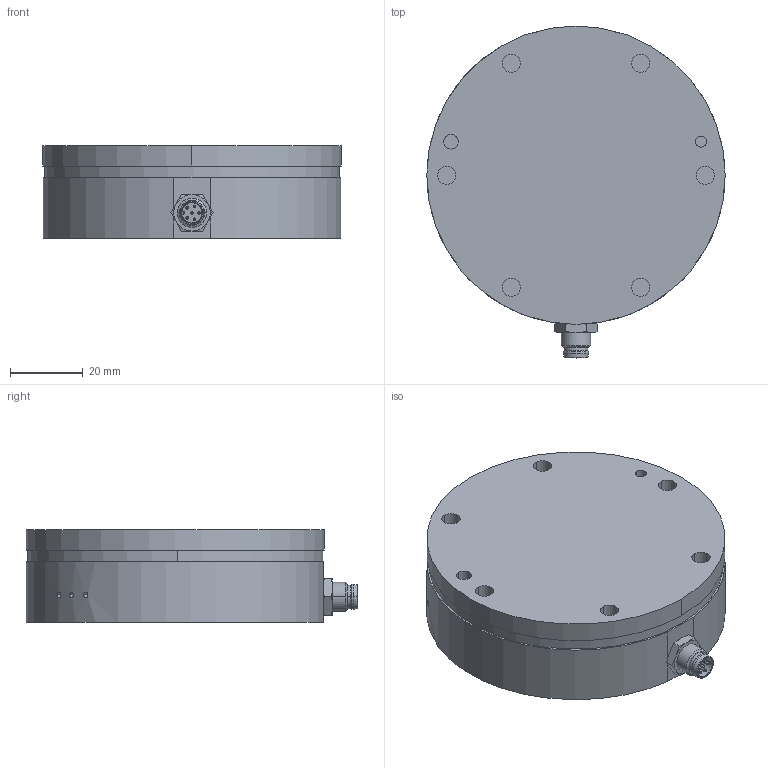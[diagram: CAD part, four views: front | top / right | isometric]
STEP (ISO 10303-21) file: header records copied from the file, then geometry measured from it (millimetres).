
FILE_DESCRIPTION (( 'STEP AP214' ), '1' );
FILE_NAME ('ATI-$PARTNUMBER.step', '2017-06-08T22:46:28', ( 'Windows User' ), ( '' ), 'SwSTEP 2.0', 'SolidWorks 2017', '' );
FILE_SCHEMA (( 'AUTOMOTIVE_DESIGN' ));
Length unit declared in the file: inch
Products named in the file (1): ATI-$PARTNUMBER
Bounding box: 82 x 91.19 x 25.4 mm (x, y, z)
Volume: 129999.5 mm3; surface area: 21323.3 mm2
Topology: 1 solids, 1 shells, 292 faces, 739 edges, 477 vertices
Faces by surface type: cylinder 147, plane 96, cone 30, bspline 19
Entity records: 9338 total; most frequent: CARTESIAN_POINT 2164, DIRECTION 1570, ORIENTED_EDGE 1454, EDGE_CURVE 727, AXIS2_PLACEMENT_3D 619, VERTEX_POINT 477, CIRCLE 345, EDGE_LOOP 332
